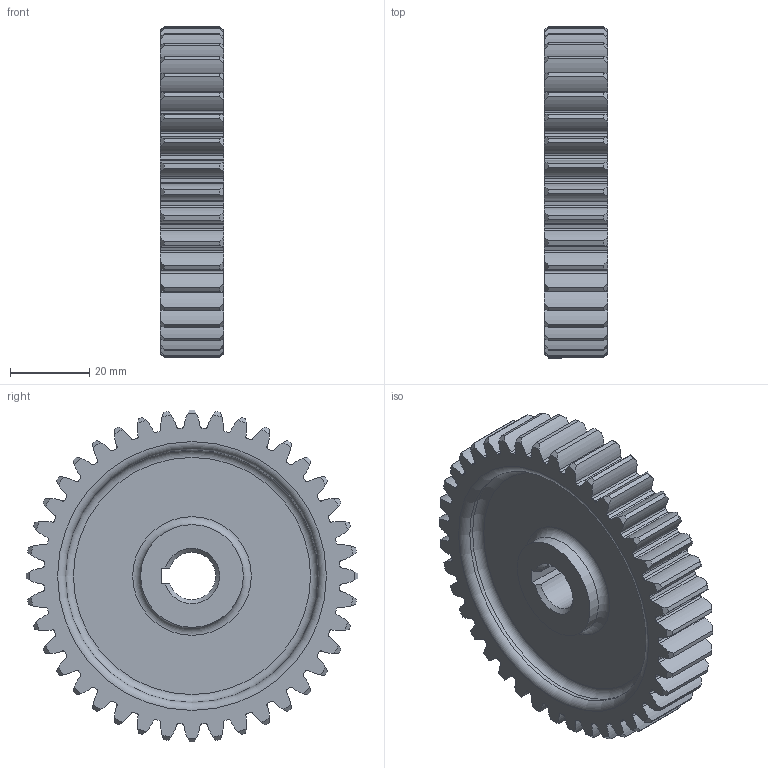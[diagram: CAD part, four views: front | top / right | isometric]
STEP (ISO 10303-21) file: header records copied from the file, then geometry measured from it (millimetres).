
FILE_DESCRIPTION(/* description */ (''),/* implementation_level */ '2;1');
FILE_NAME(/* name */ '',/* time_stamp */ '2024-04-08T11:28:52+09:00',/* author */ ('jhkim'),/* organization */ (''),/* preprocessor_version */ 'ST-DEVELOPER v20',/* originating_system */ 'Autodesk Inventor 2025',/* authorisation */ '');
FILE_SCHEMA (('AUTOMOTIVE_DESIGN { 1 0 10303 214 3 1 1 }'));
Length unit declared in the file: millimetre
Products named in the file (1): 스퍼기어
Bounding box: 16 x 84 x 84 mm (x, y, z)
Volume: 50881.5 mm3; surface area: 20076.9 mm2
Topology: 1 solids, 1 shells, 342 faces, 1008 edges, 672 vertices
Faces by surface type: cylinder 245, cone 82, plane 9, torus 6
Full cylindrical faces by diameter (mm): 26 x2, 64 x2
Entity records: 11945 total; most frequent: CARTESIAN_POINT 2511, DIRECTION 2120, ORIENTED_EDGE 2016, EDGE_CURVE 1008, AXIS2_PLACEMENT_3D 933, VERTEX_POINT 672, CIRCLE 590, EDGE_LOOP 348
